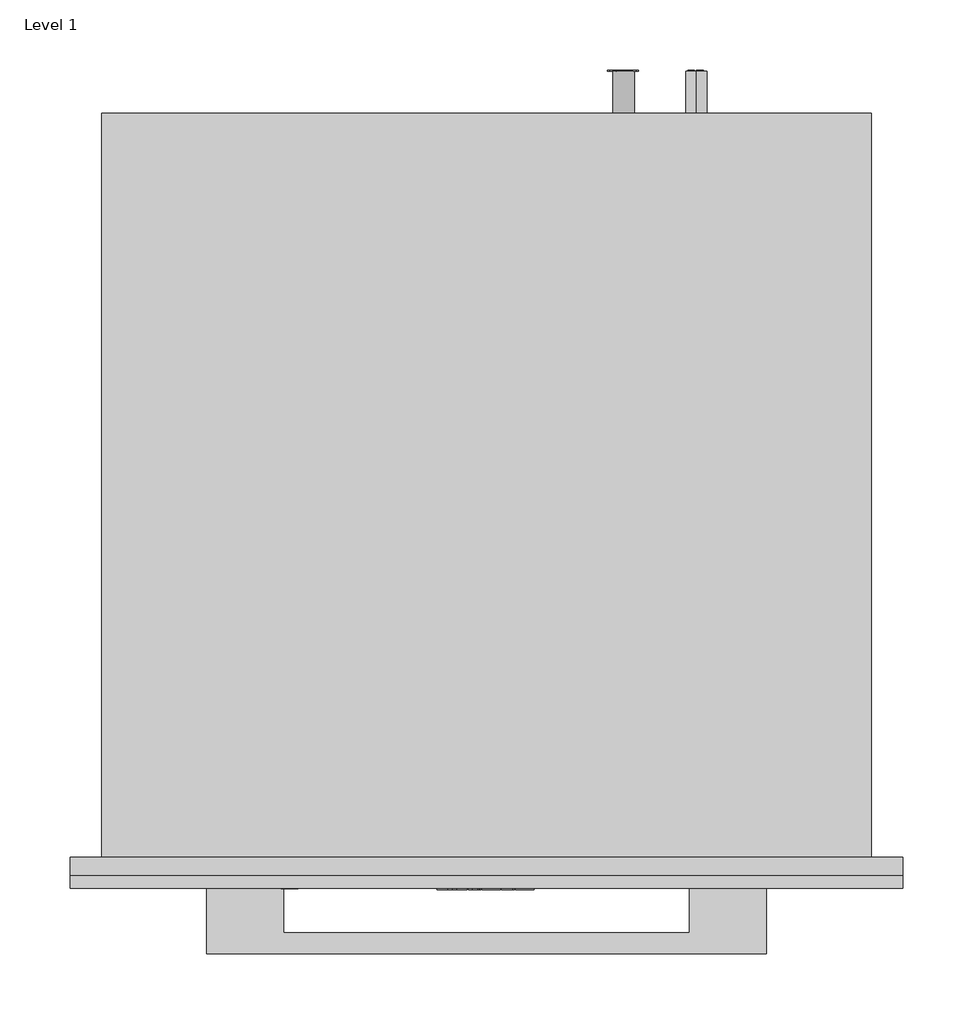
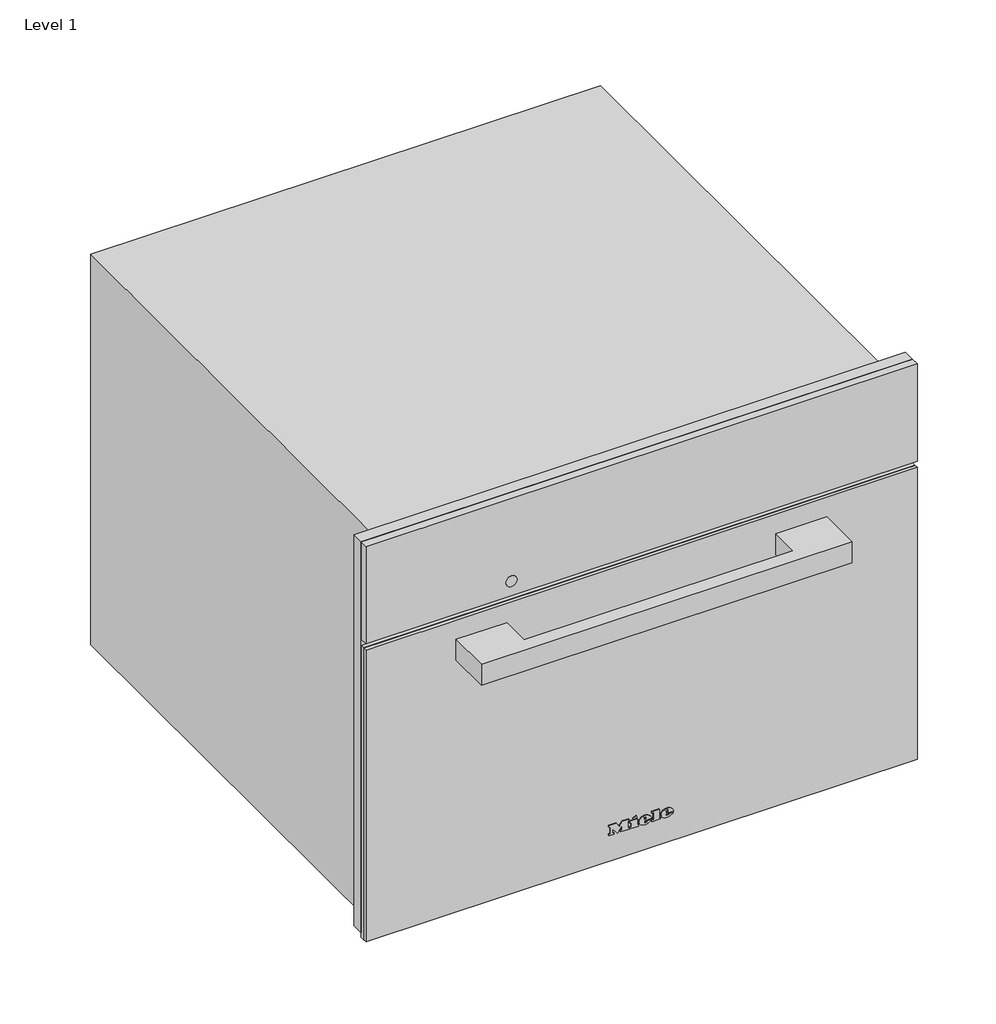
# One storey: 1 proxy.
"""IFC4 building model written with IfcOpenShell, lengths in millimetres."""

from ifc_helpers import new_model, si_unit, origin, place, context, project, spatial, transform, mapped, element, save
from components import specialty_equipment_d4a3625e

model = new_model("IFC4")

# Units and contexts
model_context = context("Model", 3, world=origin())
ifc_project = project(units=[si_unit("LENGTHUNIT", "METRE", prefix="MILLI")], contexts=[model_context])

# Site, building, storey
site = spatial("IfcSite", under=ifc_project)
building = spatial("IfcBuilding", under=site)
storey = spatial("IfcBuildingStorey", under=building, Name="Level 1", Elevation=0.0)

# Proxy
placement = place(None, origin())
specialty_equipment_shape = specialty_equipment_d4a3625e(model_context)
element("IfcBuildingElementProxy", 1, Name="11100870_F_DGM7645_BRWS : 23764514_F_11100870_DGM7645_BRWS", ObjectType="11100870_F_DGM7645_BRWS : 23764514_F_11100870_DGM7645_BRWS", at=placement, inside=storey, context=model_context, shape_type="MappedRepresentation", body=[
    mapped(specialty_equipment_shape, transform((0.0, 0.0, 0.0), x_axis=(1.0, 0.0, 0.0), y_axis=(0.0, 1.0, 0.0), z_axis=(0.0, 0.0, 1.0))),
])

save(model, "model.ifc")
